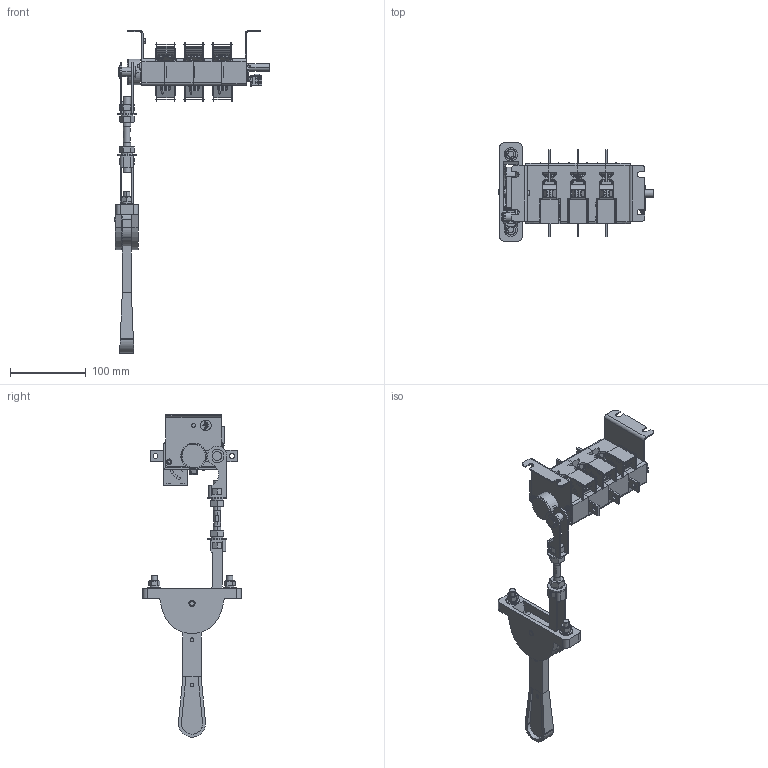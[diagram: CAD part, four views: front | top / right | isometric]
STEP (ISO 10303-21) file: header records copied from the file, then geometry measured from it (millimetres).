
FILE_DESCRIPTION (( 'STEP AP214' ), '1' );
FILE_NAME ('ﾂﾐ32-31ﾔ ﾃﾆﾈﾊ.642423.007-06 (ﾀ31241-100ﾀ).STEP', '2022-07-14T12:47:49', ( '' ), ( '' ), 'SwSTEP 2.0', 'SolidWorks 2018', '' );
FILE_SCHEMA (( 'AUTOMOTIVE_DESIGN' ));
Length unit declared in the file: millimetre
Products named in the file (60): 蓐聆屙蝠桕 闷仁.751621.001; Ïðóæ014(13)_¤«ï á¡®àª¨; 栺樇罻; 枔膴闀歑樏錌欑蠈錪 蟠61; 瀇僔蠂縺019; 殃钺郷闷仁.301535.004蚜; ﾊ煇鳫 ﾃﾆﾈﾊ.745357.005; Øàéáà ñïåöèàëüíàÿ; îñü023; Øïèëüêà ñïåöèàëüíàÿ ÃÆÈÊ.754292.014_-01(à¥§ì¡ ); Ñêîáà ÃÆÈÊ.745326.032_“áâ ­®¢«¥­­®¥ á®áâ; Èñêðîãàñèòåëü; ﾏ跖浯 ﾃﾆﾈﾊ.753553.010; 婰膲僗闉010; Ðóêîÿòêà_ÃÆÈÊ.303658.012ÑÁ; Êîðïóñ ëåâûé ÃÆÈÊ.735384.081; Áîêîâèíà ïðàâàÿ ÃÆÈÊ.735224.022; 殃钺郷闷仁.745327.027_帷獱; 想囫蜩磬 (牮赅); 想囫蜩磬_闷仁.745355.029; ﾂﾐ32-31ﾔ ﾃﾆﾈﾊ.642423.007-06 (ﾀ31241-100ﾀ); 殃钺郷闷仁.745327.019_帷獱; Ãàéêà 2Ì8-6Í.5.016; Áîêîâèíà ëåâàÿ ÃÆÈÊ.735224.023_-01 (à¥§ì¡ ); ÈñêðîãàñèòåëüÃÆÈÊ.686433.006; 仫桦郷闷仁.758292.007; Ðóêîÿòêà_ÃÆÈÊ.303658.018; ﾎ_ﾃﾆﾈﾊ.715411.027_-01 (癸ｮ爼); Òàáëè÷êà äëÿ ñáîðêè ÷èñòàÿ áîëüøàÿ; ﾘ琺矜 8 65ﾃ 016; Òàáëè÷êà äëÿ ñáîðêè ÷èñòàÿ; ﾂ琿 ﾃﾆﾈﾊ.303731.003; Âèíò Â.Ì4-6g_-00 (Œ4å8); ﾘ琺矜 8.01.019; 挓鎀霠罻; Ãàéêà Ì4; Ðóêîÿòêà ÃÆÈÊ.303658.014; ﾏ魵鮏鶴ﾃﾆﾈﾊ.741321.006; Áîëò Ì8õ25.58.019; Ïðîêëàäêà ÃÆÈÊ.741233.006_-01(¤«ï ç¥àâ¥¦ )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
Assembly tree (100 placements, depth 5):
  ﾂﾐ32-31ﾔ ﾃﾆﾈﾊ.642423.007-06 (ﾀ31241-100ﾀ)
    暑痫篑 镳噔 闷仁.735384.079
    Êîðïóñ ëåâûé ÃÆÈÊ.735384.081
    Êîðïóñ ñðåäíèé ÃÆÈÊ.735384.080  x2
    Áîêîâèíà ïðàâàÿ ÃÆÈÊ.735224.022
    Áîêîâèíà ëåâàÿ ÃÆÈÊ.735224.023_-01 (à¥§ì¡ )
    Ïðîêëàäêà ÃÆÈÊ.741233.006_-01(¤«ï ç¥àâ¥¦ )  x2
    蓐聆屙蝠桕 闷仁.751621.001
    ﾊ煇鳫 ﾃﾆﾈﾊ.745357.005
    枔膴闀歑樏錌欑蠈錪 蟠61
    Âèíò Â.Ì4-6g_-00 (Œ4å8)
    ﾘ琺矜 4  x3
    Ãàéêà Ì4  x2
    Øïèëüêà ñïåöèàëüíàÿ ÃÆÈÊ.754292.014_-01(à¥§ì¡ )  x2
    ﾂ鏆鮏 ﾃﾆﾈﾊ.745485.002  x6
    Êàìåðà äóãîãàñèòåëüíàÿ ÃÆÈÊ.686431.023_01(¯à®¢®«®ª )  x6
      想囫蜩磬 (牮赅)
      栺樇罻
      Èñêðîãàñèòåëü
      ÈñêðîãàñèòåëüÃÆÈÊ.686433.006
        ÈñêðîãàñèòåëüÃÆÈÊ741271005_sborka
        ÑêîáàÃÆÈÊ.746743.004
    Òàáëè÷êà äëÿ ñáîðêè ÷èñòàÿ
    Òàáëè÷êà äëÿ ñáîðêè ÷èñòàÿ áîëüøàÿ
    Ðóêîÿòêà ÃÆÈÊ.303658.014
      Êîðïóñ_ÃÆÈÊ.735384.053_¤«ï ç¥àâ¥¦ 
      Ðóêîÿòêà_ÃÆÈÊ.303658.012ÑÁ
        瀇僔蠂縺019
        挓鎀霠罻
      îñü023
      Ñêîáà010
      婰膲僗闉010
      Ïðóæ014(13)_¤«ï á¡®àª¨
      殃钺郷闷仁.301535.003蚜
        Ãàéêà 2Ì10-6Í.5.016
        殃钺郷闷仁.745327.019_帷獱
      务黖闷仁.715411.024
      仫桦郷闷仁.758292.007
      殃钺郷闷仁.301535.004蚜
        殃钺郷闷仁.745327.027_帷獱
        Ãàéêà 2Ì10-6Í.5.016
      Ðóêîÿòêà_ÃÆÈÊ.303658.018
        ﾏ魵鮏鶴 ﾃﾆﾈﾊ.304594.012Cﾁ
          ﾏ魵鮏鶴ﾃﾆﾈﾊ.741321.006
          ﾎ_ﾃﾆﾈﾊ.715411.027_-01 (癸ｮ爼)
          想囫蜩磬_闷仁.745355.029
        挓鎀霠罻_100-400
      Ãàéêà 2Ì10-6Í.5.016  x2
      ﾘ琺矜 ⅰⅱ浯 ﾃﾆﾈﾊ.758491.067
      青汶篪赅_闷仁.735211.002
      Áîëò Ì8õ25.58.019  x2
      ﾘ琺矜 8.01.019  x2
      ﾘ琺矜 8 65ﾃ 016  x2
      Ãàéêà 2Ì8-6Í.5.016  x2
      Øàéáà ñïåöèàëüíàÿ  x2
      ﾘ琺矜 10 65ﾃ 016  x2
    ﾂ琿 ﾃﾆﾈﾊ.303731.003
      Âàë ÃÆÈÊ.715274.009_ƒ†ˆŠ.715274.009
      Êîíòàêò ïîäâèæíûé ÃÆÈÊ.745355.054  x6
      Ñêîáà ÃÆÈÊ.745326.032_“áâ ­®¢«¥­­®¥ á®áâ  x6
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Bounding box: 204.5 x 130 x 426.54 mm (x, y, z)
Volume: 432385.6 mm3; surface area: 327604.5 mm2
Topology: 131 solids, 131 shells, 5133 faces, 13496 edges, 8703 vertices
Faces by surface type: plane 3430, cylinder 1333, torus 144, bspline 130, cone 88, sphere 8
Entity records: 84058 total; most frequent: CARTESIAN_POINT 22259, DIRECTION 11487, ORIENTED_EDGE 11214, EDGE_CURVE 5607, AXIS2_PLACEMENT_3D 3941, VERTEX_POINT 3625, VECTOR 3605, LINE 3605
